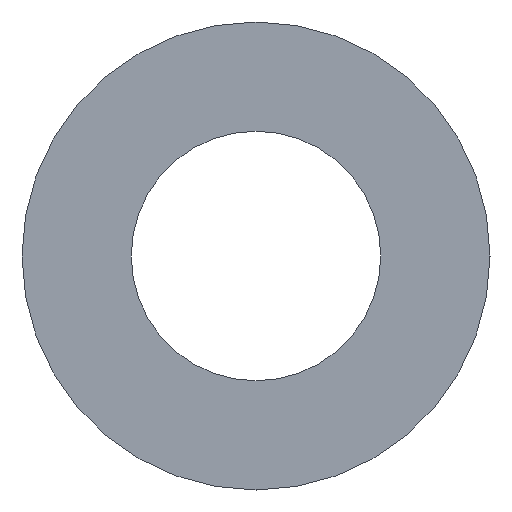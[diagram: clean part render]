
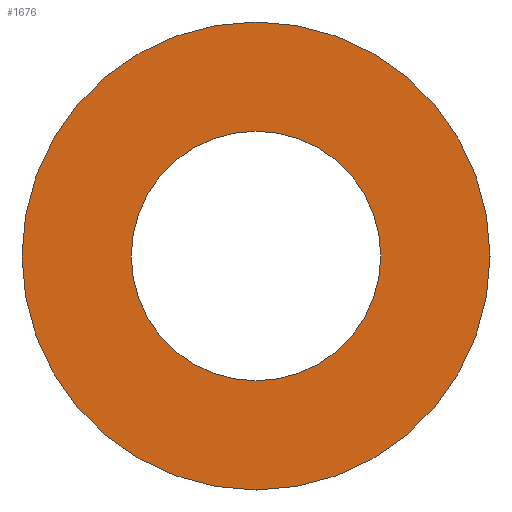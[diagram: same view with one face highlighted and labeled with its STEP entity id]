
A CAD part, front view. The second image highlights one B-rep face of the part: STEP entity #1676.
In plain terms, the highlighted planar face has unit normal (0, -1, 0).
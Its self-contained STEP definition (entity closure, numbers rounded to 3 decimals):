
#15 = VERTEX_POINT ( 'NONE', #107 ) ;
#107 = CARTESIAN_POINT ( 'NONE',  ( 0., -14., 16. ) ) ;
#168 = ORIENTED_EDGE ( 'NONE', *, *, #1856, .T. ) ;
#385 = FACE_OUTER_BOUND ( 'NONE', #524, .T. ) ;
#402 = DIRECTION ( 'NONE',  ( 0., 0., 1. ) ) ;
#524 = EDGE_LOOP ( 'NONE', ( #168, #750 ) ) ;
#539 = ORIENTED_EDGE ( 'NONE', *, *, #2786, .F. ) ;
#750 = ORIENTED_EDGE ( 'NONE', *, *, #1591, .T. ) ;
#875 = CIRCLE ( 'NONE', #1732, 30. ) ;
#912 = CARTESIAN_POINT ( 'NONE',  ( 0., -14., 0. ) ) ;
#949 = EDGE_CURVE ( 'NONE', #15, #1857, #1566, .T. ) ;
#958 = CARTESIAN_POINT ( 'NONE',  ( 0., -14., 16. ) ) ;
#965 = AXIS2_PLACEMENT_3D ( 'NONE', #958, #1808, #402 ) ;
#1045 = AXIS2_PLACEMENT_3D ( 'NONE', #2712, #1590, #1286 ) ;
#1203 = DIRECTION ( 'NONE',  ( 0., -1., 0. ) ) ;
#1270 = AXIS2_PLACEMENT_3D ( 'NONE', #3439, #3204, #3473 ) ;
#1286 = DIRECTION ( 'NONE',  ( 0., 0., -1. ) ) ;
#1441 = FACE_BOUND ( 'NONE', #1727, .T. ) ;
#1544 = AXIS2_PLACEMENT_3D ( 'NONE', #912, #3535, #2413 ) ;
#1566 = CIRCLE ( 'NONE', #1270, 16. ) ;
#1590 = DIRECTION ( 'NONE',  ( 0., -1., 0. ) ) ;
#1591 = EDGE_CURVE ( 'NONE', #2658, #2659, #875, .T. ) ;
#1676 = ADVANCED_FACE ( 'NONE', ( #1441, #385 ), #3525, .F. ) ;
#1727 = EDGE_LOOP ( 'NONE', ( #539, #2980 ) ) ;
#1732 = AXIS2_PLACEMENT_3D ( 'NONE', #3186, #1203, #1777 ) ;
#1777 = DIRECTION ( 'NONE',  ( 0., 0., -1. ) ) ;
#1808 = DIRECTION ( 'NONE',  ( 0., 1., 0. ) ) ;
#1856 = EDGE_CURVE ( 'NONE', #2659, #2658, #2800, .T. ) ;
#1857 = VERTEX_POINT ( 'NONE', #2426 ) ;
#2413 = DIRECTION ( 'NONE',  ( 0., 0., -1. ) ) ;
#2426 = CARTESIAN_POINT ( 'NONE',  ( 0., -14., -16. ) ) ;
#2658 = VERTEX_POINT ( 'NONE', #2883 ) ;
#2659 = VERTEX_POINT ( 'NONE', #3706 ) ;
#2712 = CARTESIAN_POINT ( 'NONE',  ( 0., -14., 0. ) ) ;
#2786 = EDGE_CURVE ( 'NONE', #1857, #15, #3107, .T. ) ;
#2800 = CIRCLE ( 'NONE', #1045, 30. ) ;
#2883 = CARTESIAN_POINT ( 'NONE',  ( 0., -14., 30. ) ) ;
#2980 = ORIENTED_EDGE ( 'NONE', *, *, #949, .F. ) ;
#3107 = CIRCLE ( 'NONE', #1544, 16. ) ;
#3186 = CARTESIAN_POINT ( 'NONE',  ( 0., -14., 0. ) ) ;
#3204 = DIRECTION ( 'NONE',  ( 0., -1., 0. ) ) ;
#3439 = CARTESIAN_POINT ( 'NONE',  ( 0., -14., 0. ) ) ;
#3473 = DIRECTION ( 'NONE',  ( 0., 0., -1. ) ) ;
#3525 = PLANE ( 'NONE',  #965 ) ;
#3535 = DIRECTION ( 'NONE',  ( 0., -1., 0. ) ) ;
#3706 = CARTESIAN_POINT ( 'NONE',  ( 0., -14., -30. ) ) ;
